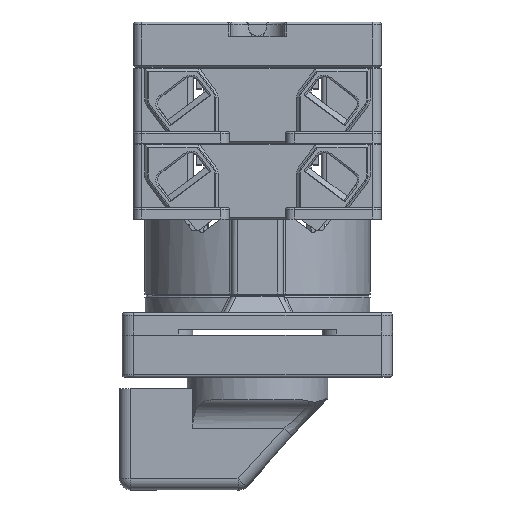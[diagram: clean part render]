
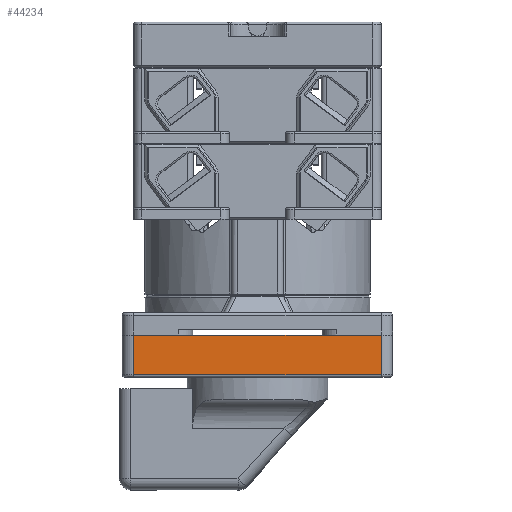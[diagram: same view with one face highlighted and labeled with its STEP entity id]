
A CAD part, front view. The second image highlights one B-rep face of the part: STEP entity #44234.
In plain terms, the highlighted planar face has unit normal (0, -1, 0) as drawn and (0, 0, -1) by its records, which use the part's own axes.
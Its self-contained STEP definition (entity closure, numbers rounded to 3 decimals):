
#1475 = FACE_OUTER_BOUND ( 'NONE', #46919, .T. ) ;
#2957 = CARTESIAN_POINT ( 'NONE',  ( -24., 8., -24. ) ) ;
#2961 = PLANE ( 'NONE',  #74934 ) ;
#2963 = DIRECTION ( 'NONE',  ( 0., 0., 1. ) ) ;
#2964 = DIRECTION ( 'NONE',  ( 1., 0., 0. ) ) ;
#26398 = VERTEX_POINT ( 'NONE', #67670 ) ;
#26399 = VERTEX_POINT ( 'NONE', #67671 ) ;
#26400 = VERTEX_POINT ( 'NONE', #67672 ) ;
#37933 = VERTEX_POINT ( 'NONE', #73416 ) ;
#44234 = ADVANCED_FACE ( 'NONE', ( #1475 ), #2961, .F. ) ;
#46919 = EDGE_LOOP ( 'NONE', ( #51718, #51721, #51724, #51727 ) ) ;
#51718 = ORIENTED_EDGE ( 'NONE', *, *, #58579, .T. ) ;
#51721 = ORIENTED_EDGE ( 'NONE', *, *, #58581, .T. ) ;
#51724 = ORIENTED_EDGE ( 'NONE', *, *, #58583, .T. ) ;
#51727 = ORIENTED_EDGE ( 'NONE', *, *, #58584, .F. ) ;
#58579 = EDGE_CURVE ( 'NONE', #37933, #26400, #60599, .T. ) ;
#58581 = EDGE_CURVE ( 'NONE', #26400, #26399, #60611, .T. ) ;
#58583 = EDGE_CURVE ( 'NONE', #26399, #26398, #60619, .T. ) ;
#58584 = EDGE_CURVE ( 'NONE', #37933, #26398, #60623, .T. ) ;
#60599 = LINE ( 'NONE', #66436, #60617 ) ;
#60611 = LINE ( 'NONE', #66441, #60621 ) ;
#60617 = VECTOR ( 'NONE', #66448, 1000. ) ;
#60619 = LINE ( 'NONE', #66451, #60625 ) ;
#60621 = VECTOR ( 'NONE', #66450, 1000. ) ;
#60623 = LINE ( 'NONE', #66453, #60629 ) ;
#60625 = VECTOR ( 'NONE', #66452, 1000. ) ;
#60629 = VECTOR ( 'NONE', #66454, 1000. ) ;
#66436 = CARTESIAN_POINT ( 'NONE',  ( -22., 8., -24. ) ) ;
#66441 = CARTESIAN_POINT ( 'NONE',  ( 22., 6., -24. ) ) ;
#66448 = DIRECTION ( 'NONE',  ( 0., 1., 0. ) ) ;
#66450 = DIRECTION ( 'NONE',  ( 1., 0., 0. ) ) ;
#66451 = CARTESIAN_POINT ( 'NONE',  ( 22., 8., -24. ) ) ;
#66452 = DIRECTION ( 'NONE',  ( 0., -1., 0. ) ) ;
#66453 = CARTESIAN_POINT ( 'NONE',  ( -24., -1., -24. ) ) ;
#66454 = DIRECTION ( 'NONE',  ( 1., 0., 0. ) ) ;
#67670 = CARTESIAN_POINT ( 'NONE',  ( 22., -1., -24. ) ) ;
#67671 = CARTESIAN_POINT ( 'NONE',  ( 22., 6., -24. ) ) ;
#67672 = CARTESIAN_POINT ( 'NONE',  ( -22., 6., -24. ) ) ;
#73416 = CARTESIAN_POINT ( 'NONE',  ( -22., -1., -24. ) ) ;
#74934 = AXIS2_PLACEMENT_3D ( 'NONE', #2957, #2963, #2964 ) ;
